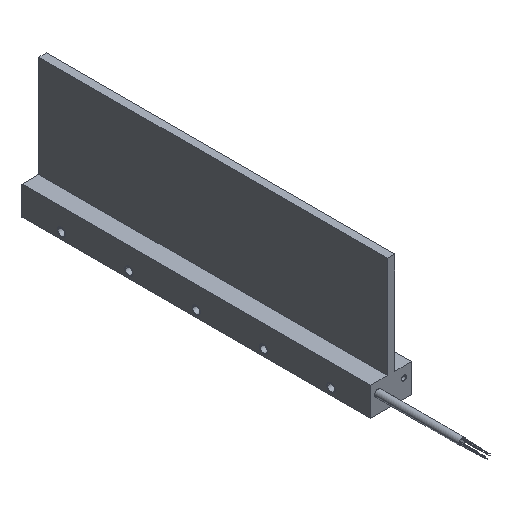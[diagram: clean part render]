
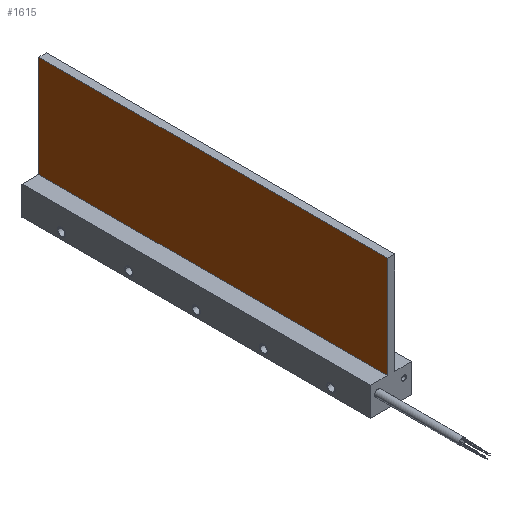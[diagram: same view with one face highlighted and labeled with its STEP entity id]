
A CAD part, isometric view. The second image highlights one B-rep face of the part: STEP entity #1615.
In plain terms, the highlighted planar face has unit normal (-1, 0, 0).
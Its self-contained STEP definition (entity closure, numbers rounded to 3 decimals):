
#21=DIRECTION('',(0.,0.,1.));
#22=VECTOR('',#21,60.3);
#23=CARTESIAN_POINT('',(-2.2,-103.405,0.));
#24=LINE('',#23,#22);
#71=DIRECTION('',(0.,1.,0.));
#72=VECTOR('',#71,206.81);
#73=CARTESIAN_POINT('',(-2.2,-103.405,60.3));
#74=LINE('',#73,#72);
#75=DIRECTION('',(0.,1.,0.));
#76=VECTOR('',#75,206.81);
#77=CARTESIAN_POINT('',(-2.2,-103.405,0.));
#78=LINE('',#77,#76);
#287=DIRECTION('',(0.,0.,1.));
#288=VECTOR('',#287,60.3);
#289=CARTESIAN_POINT('',(-2.2,103.405,0.));
#290=LINE('',#289,#288);
#1191=CARTESIAN_POINT('',(-2.2,-103.405,0.));
#1192=VERTEX_POINT('',#1191);
#1193=CARTESIAN_POINT('',(-2.2,-103.405,60.3));
#1194=VERTEX_POINT('',#1193);
#1207=CARTESIAN_POINT('',(-2.2,103.405,0.));
#1208=VERTEX_POINT('',#1207);
#1209=CARTESIAN_POINT('',(-2.2,103.405,60.3));
#1210=VERTEX_POINT('',#1209);
#1602=CARTESIAN_POINT('',(-2.2,-103.405,0.));
#1603=DIRECTION('',(-1.,0.,0.));
#1604=DIRECTION('',(0.,0.,1.));
#1605=AXIS2_PLACEMENT_3D('',#1602,#1603,#1604);
#1606=PLANE('',#1605);
#1607=ORIENTED_EDGE('',*,*,#1532,.F.);
#1609=ORIENTED_EDGE('',*,*,#1608,.T.);
#1611=ORIENTED_EDGE('',*,*,#1610,.T.);
#1612=ORIENTED_EDGE('',*,*,#1594,.F.);
#1613=EDGE_LOOP('',(#1607,#1609,#1611,#1612));
#1614=FACE_OUTER_BOUND('',#1613,.F.);
#1615=ADVANCED_FACE('',(#1614),#1606,.T.);
#1532=EDGE_CURVE('',#1192,#1194,#24,.T.);
#1594=EDGE_CURVE('',#1194,#1210,#74,.T.);
#1608=EDGE_CURVE('',#1192,#1208,#78,.T.);
#1610=EDGE_CURVE('',#1208,#1210,#290,.T.);
